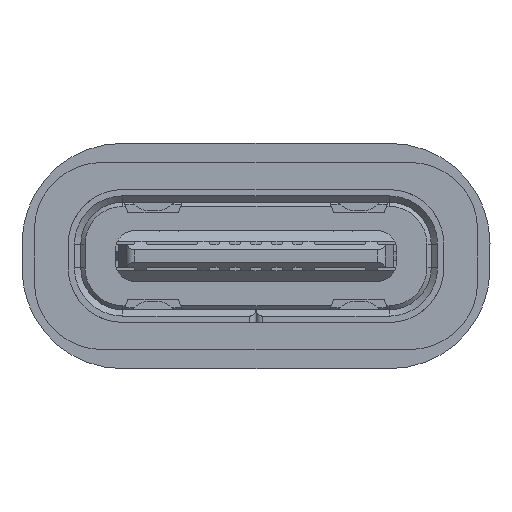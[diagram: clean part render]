
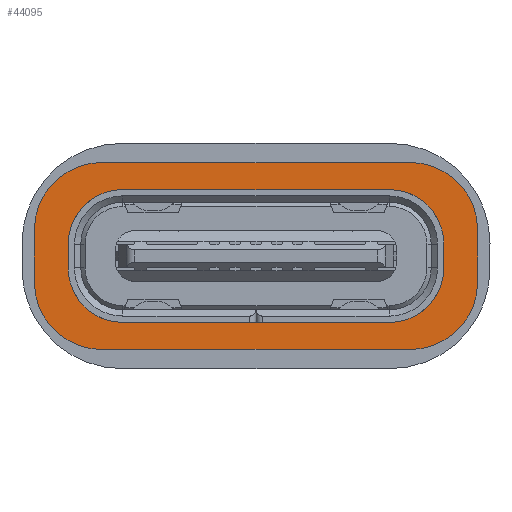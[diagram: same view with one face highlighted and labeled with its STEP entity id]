
A CAD part, front view. The second image highlights one B-rep face of the part: STEP entity #44095.
In plain terms, the highlighted planar face has unit normal (0, -1, 0).
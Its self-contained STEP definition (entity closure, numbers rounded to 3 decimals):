
#246 = AXIS2_PLACEMENT_3D ( 'NONE', #16341, #23169, #9541 ) ;
#1345 = VERTEX_POINT ( 'NONE', #17207 ) ;
#1707 = DIRECTION ( 'NONE',  ( 1., 0., 0. ) ) ;
#2246 = CARTESIAN_POINT ( 'NONE',  ( -1.511, -2.283, 19.966 ) ) ;
#2779 = CARTESIAN_POINT ( 'NONE',  ( -2.306, -2.283, 22.471 ) ) ;
#4203 = CARTESIAN_POINT ( 'NONE',  ( -1.006, -2.283, 22.471 ) ) ;
#5198 = CARTESIAN_POINT ( 'NONE',  ( -1.006, -2.283, 23.771 ) ) ;
#5418 = DIRECTION ( 'NONE',  ( 0., -1., 0. ) ) ;
#6009 = AXIS2_PLACEMENT_3D ( 'NONE', #24419, #37838, #10569 ) ;
#6714 = EDGE_CURVE ( 'NONE', #38779, #9620, #11480, .T. ) ;
#7792 = VECTOR ( 'NONE', #42055, 1000. ) ;
#7917 = ORIENTED_EDGE ( 'NONE', *, *, #35299, .T. ) ;
#8136 = DIRECTION ( 'NONE',  ( 0., 0., 1. ) ) ;
#8180 = VERTEX_POINT ( 'NONE', #34557 ) ;
#8255 = CIRCLE ( 'NONE', #246, 1.6 ) ;
#8904 = AXIS2_PLACEMENT_3D ( 'NONE', #39685, #12384, #1707 ) ;
#8984 = ORIENTED_EDGE ( 'NONE', *, *, #6714, .F. ) ;
#9474 = ORIENTED_EDGE ( 'NONE', *, *, #33694, .T. ) ;
#9541 = DIRECTION ( 'NONE',  ( 1., 0., 0. ) ) ;
#9547 = AXIS2_PLACEMENT_3D ( 'NONE', #30412, #26998, #40860 ) ;
#9620 = VERTEX_POINT ( 'NONE', #5198 ) ;
#9965 = DIRECTION ( 'NONE',  ( 1., 0., 0. ) ) ;
#10493 = LINE ( 'NONE', #24341, #7792 ) ;
#10569 = DIRECTION ( 'NONE',  ( -1., 0., 0. ) ) ;
#11105 = ORIENTED_EDGE ( 'NONE', *, *, #39113, .T. ) ;
#11298 = CARTESIAN_POINT ( 'NONE',  ( 7.439, -2.283, 22.816 ) ) ;
#11480 = LINE ( 'NONE', #22592, #13511 ) ;
#11831 = VECTOR ( 'NONE', #40367, 1000. ) ;
#12160 = DIRECTION ( 'NONE',  ( 1., 0., 0. ) ) ;
#12301 = CARTESIAN_POINT ( 'NONE',  ( -3.111, -2.283, 22.816 ) ) ;
#12384 = DIRECTION ( 'NONE',  ( 0., -1., 0. ) ) ;
#12514 = CARTESIAN_POINT ( 'NONE',  ( 5.839, -2.283, 22.816 ) ) ;
#13125 = CARTESIAN_POINT ( 'NONE',  ( -1.006, -2.283, 20.611 ) ) ;
#13365 = EDGE_CURVE ( 'NONE', #40598, #24620, #38158, .T. ) ;
#13511 = VECTOR ( 'NONE', #25334, 1000. ) ;
#13559 = VECTOR ( 'NONE', #9965, 1000. ) ;
#13591 = CARTESIAN_POINT ( 'NONE',  ( -1.511, -2.283, 19.966 ) ) ;
#15408 = VERTEX_POINT ( 'NONE', #16230 ) ;
#15517 = VERTEX_POINT ( 'NONE', #44190 ) ;
#15672 = VECTOR ( 'NONE', #33310, 1000. ) ;
#15934 = PLANE ( 'NONE',  #39016 ) ;
#16088 = CIRCLE ( 'NONE', #21216, 1.6 ) ;
#16230 = CARTESIAN_POINT ( 'NONE',  ( -3.111, -2.283, 21.566 ) ) ;
#16341 = CARTESIAN_POINT ( 'NONE',  ( -1.511, -2.283, 22.816 ) ) ;
#16851 = VERTEX_POINT ( 'NONE', #11298 ) ;
#17120 = ORIENTED_EDGE ( 'NONE', *, *, #22647, .F. ) ;
#17207 = CARTESIAN_POINT ( 'NONE',  ( 6.634, -2.283, 22.471 ) ) ;
#18069 = DIRECTION ( 'NONE',  ( 0., -1., 0. ) ) ;
#18092 = ORIENTED_EDGE ( 'NONE', *, *, #26550, .F. ) ;
#18332 = LINE ( 'NONE', #32203, #19599 ) ;
#19036 = LINE ( 'NONE', #42913, #38758 ) ;
#19261 = CIRCLE ( 'NONE', #44661, 1.3 ) ;
#19506 = CARTESIAN_POINT ( 'NONE',  ( 5.839, -2.283, 22.816 ) ) ;
#19548 = EDGE_CURVE ( 'NONE', #9620, #41069, #19261, .T. ) ;
#19599 = VECTOR ( 'NONE', #28783, 1000. ) ;
#19692 = CIRCLE ( 'NONE', #9547, 1.6 ) ;
#20073 = CARTESIAN_POINT ( 'NONE',  ( 5.334, -2.283, 21.911 ) ) ;
#20151 = LINE ( 'NONE', #23769, #11831 ) ;
#20712 = VERTEX_POINT ( 'NONE', #23271 ) ;
#21216 = AXIS2_PLACEMENT_3D ( 'NONE', #19506, #5418, #33367 ) ;
#21285 = CARTESIAN_POINT ( 'NONE',  ( 5.839, -2.283, 19.966 ) ) ;
#21617 = ORIENTED_EDGE ( 'NONE', *, *, #42012, .T. ) ;
#21679 = EDGE_CURVE ( 'NONE', #31357, #32616, #43748, .T. ) ;
#21945 = ORIENTED_EDGE ( 'NONE', *, *, #25744, .F. ) ;
#22592 = CARTESIAN_POINT ( 'NONE',  ( 5.334, -2.283, 23.771 ) ) ;
#22596 = LINE ( 'NONE', #2779, #32812 ) ;
#22617 = CARTESIAN_POINT ( 'NONE',  ( -2.306, -2.283, 21.911 ) ) ;
#22647 = EDGE_CURVE ( 'NONE', #24620, #1345, #18332, .T. ) ;
#23169 = DIRECTION ( 'NONE',  ( 0., -1., 0. ) ) ;
#23271 = CARTESIAN_POINT ( 'NONE',  ( 7.439, -2.283, 21.566 ) ) ;
#23344 = CARTESIAN_POINT ( 'NONE',  ( 5.334, -2.283, 20.611 ) ) ;
#23769 = CARTESIAN_POINT ( 'NONE',  ( 2.769, -2.283, 20.611 ) ) ;
#24341 = CARTESIAN_POINT ( 'NONE',  ( -3.111, -2.283, 22.816 ) ) ;
#24419 = CARTESIAN_POINT ( 'NONE',  ( 5.839, -2.283, 21.566 ) ) ;
#24620 = VERTEX_POINT ( 'NONE', #42693 ) ;
#25107 = EDGE_CURVE ( 'NONE', #15408, #36948, #19692, .T. ) ;
#25334 = DIRECTION ( 'NONE',  ( -1., 0., 0. ) ) ;
#25700 = EDGE_LOOP ( 'NONE', ( #9474, #21617, #11105, #29918, #37375, #35081, #7917, #39970 ) ) ;
#25744 = EDGE_CURVE ( 'NONE', #41069, #31357, #22596, .T. ) ;
#26348 = ORIENTED_EDGE ( 'NONE', *, *, #13365, .F. ) ;
#26436 = DIRECTION ( 'NONE',  ( 0., -1., 0. ) ) ;
#26550 = EDGE_CURVE ( 'NONE', #32616, #40598, #20151, .T. ) ;
#26941 = LINE ( 'NONE', #40805, #15672 ) ;
#26998 = DIRECTION ( 'NONE',  ( 0., -1., 0. ) ) ;
#27066 = FACE_OUTER_BOUND ( 'NONE', #25700, .T. ) ;
#28769 = CARTESIAN_POINT ( 'NONE',  ( 5.334, -2.283, 22.471 ) ) ;
#28783 = DIRECTION ( 'NONE',  ( 0., 0., 1. ) ) ;
#29443 = DIRECTION ( 'NONE',  ( 0., -1., 0. ) ) ;
#29704 = EDGE_CURVE ( 'NONE', #20712, #16851, #19036, .T. ) ;
#29918 = ORIENTED_EDGE ( 'NONE', *, *, #44239, .T. ) ;
#30251 = DIRECTION ( 'NONE',  ( 0., 0., 1. ) ) ;
#30269 = CARTESIAN_POINT ( 'NONE',  ( 5.334, -2.283, 23.771 ) ) ;
#30412 = CARTESIAN_POINT ( 'NONE',  ( -1.511, -2.283, 21.566 ) ) ;
#31025 = VERTEX_POINT ( 'NONE', #21285 ) ;
#31201 = EDGE_CURVE ( 'NONE', #1345, #38779, #31249, .T. ) ;
#31249 = CIRCLE ( 'NONE', #43556, 1.3 ) ;
#31357 = VERTEX_POINT ( 'NONE', #22617 ) ;
#31436 = CIRCLE ( 'NONE', #6009, 1.6 ) ;
#31945 = DIRECTION ( 'NONE',  ( 1., 0., 0. ) ) ;
#32203 = CARTESIAN_POINT ( 'NONE',  ( 6.634, -2.283, 21.911 ) ) ;
#32616 = VERTEX_POINT ( 'NONE', #13125 ) ;
#32812 = VECTOR ( 'NONE', #43943, 1000. ) ;
#32954 = ORIENTED_EDGE ( 'NONE', *, *, #31201, .F. ) ;
#33310 = DIRECTION ( 'NONE',  ( -1., 0., 0. ) ) ;
#33367 = DIRECTION ( 'NONE',  ( -1., 0., 0. ) ) ;
#33694 = EDGE_CURVE ( 'NONE', #16851, #8180, #16088, .T. ) ;
#33702 = DIRECTION ( 'NONE',  ( 1., 0., 0. ) ) ;
#34557 = CARTESIAN_POINT ( 'NONE',  ( 5.839, -2.283, 24.416 ) ) ;
#34622 = AXIS2_PLACEMENT_3D ( 'NONE', #20073, #26436, #33702 ) ;
#35081 = ORIENTED_EDGE ( 'NONE', *, *, #43516, .T. ) ;
#35299 = EDGE_CURVE ( 'NONE', #31025, #20712, #31436, .T. ) ;
#35471 = ORIENTED_EDGE ( 'NONE', *, *, #21679, .F. ) ;
#36948 = VERTEX_POINT ( 'NONE', #2246 ) ;
#37070 = FACE_BOUND ( 'NONE', #40986, .T. ) ;
#37303 = DIRECTION ( 'NONE',  ( 0., 1., 0. ) ) ;
#37375 = ORIENTED_EDGE ( 'NONE', *, *, #25107, .T. ) ;
#37818 = ORIENTED_EDGE ( 'NONE', *, *, #19548, .F. ) ;
#37838 = DIRECTION ( 'NONE',  ( 0., -1., 0. ) ) ;
#38158 = CIRCLE ( 'NONE', #34622, 1.3 ) ;
#38758 = VECTOR ( 'NONE', #8136, 1000. ) ;
#38779 = VERTEX_POINT ( 'NONE', #30269 ) ;
#39016 = AXIS2_PLACEMENT_3D ( 'NONE', #12514, #37303, #30251 ) ;
#39113 = EDGE_CURVE ( 'NONE', #15517, #44073, #8255, .T. ) ;
#39685 = CARTESIAN_POINT ( 'NONE',  ( -1.006, -2.283, 21.911 ) ) ;
#39970 = ORIENTED_EDGE ( 'NONE', *, *, #29704, .T. ) ;
#40367 = DIRECTION ( 'NONE',  ( 1., 0., 0. ) ) ;
#40598 = VERTEX_POINT ( 'NONE', #23344 ) ;
#40805 = CARTESIAN_POINT ( 'NONE',  ( -1.511, -2.283, 24.416 ) ) ;
#40860 = DIRECTION ( 'NONE',  ( 1., 0., 0. ) ) ;
#40986 = EDGE_LOOP ( 'NONE', ( #26348, #18092, #35471, #21945, #37818, #8984, #32954, #17120 ) ) ;
#41069 = VERTEX_POINT ( 'NONE', #41476 ) ;
#41084 = LINE ( 'NONE', #13591, #13559 ) ;
#41476 = CARTESIAN_POINT ( 'NONE',  ( -2.306, -2.283, 22.471 ) ) ;
#42012 = EDGE_CURVE ( 'NONE', #8180, #15517, #26941, .T. ) ;
#42055 = DIRECTION ( 'NONE',  ( 0., 0., -1. ) ) ;
#42693 = CARTESIAN_POINT ( 'NONE',  ( 6.634, -2.283, 21.911 ) ) ;
#42913 = CARTESIAN_POINT ( 'NONE',  ( 7.439, -2.283, 22.816 ) ) ;
#43516 = EDGE_CURVE ( 'NONE', #36948, #31025, #41084, .T. ) ;
#43556 = AXIS2_PLACEMENT_3D ( 'NONE', #28769, #29443, #12160 ) ;
#43748 = CIRCLE ( 'NONE', #8904, 1.3 ) ;
#43943 = DIRECTION ( 'NONE',  ( 0., 0., -1. ) ) ;
#44073 = VERTEX_POINT ( 'NONE', #12301 ) ;
#44095 = ADVANCED_FACE ( 'NONE', ( #37070, #27066 ), #15934, .F. ) ;
#44190 = CARTESIAN_POINT ( 'NONE',  ( -1.511, -2.283, 24.416 ) ) ;
#44239 = EDGE_CURVE ( 'NONE', #44073, #15408, #10493, .T. ) ;
#44661 = AXIS2_PLACEMENT_3D ( 'NONE', #4203, #18069, #31945 ) ;
